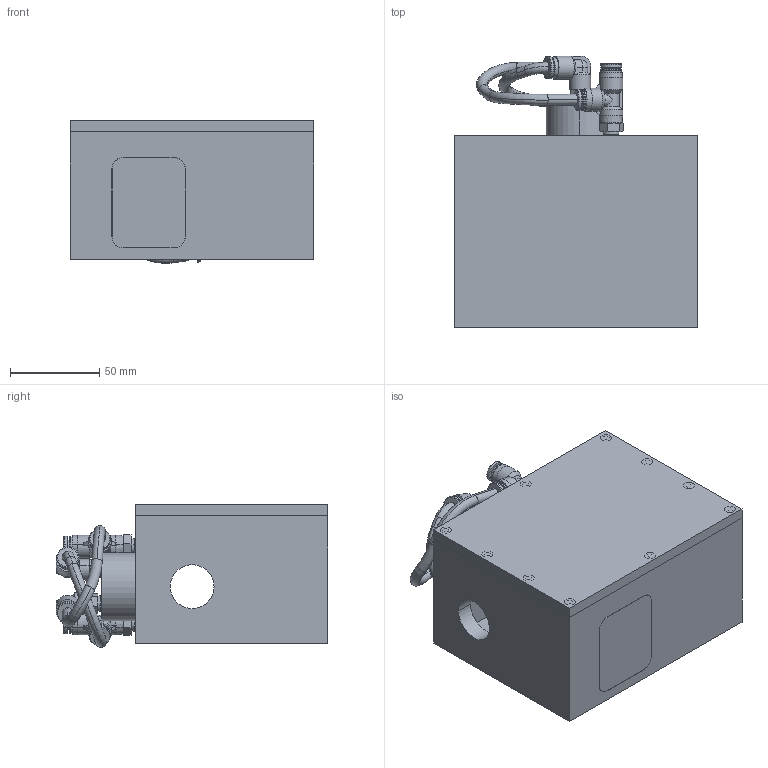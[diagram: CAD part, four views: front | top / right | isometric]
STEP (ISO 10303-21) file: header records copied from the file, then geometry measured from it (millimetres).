
FILE_DESCRIPTION (( 'STEP AP214' ), '1' );
FILE_NAME ('SSDP-19WatercooledBrassCone.STEP', '2016-07-12T15:25:11', ( '' ), ( '' ), 'SwSTEP 2.0', 'SolidWorks 2016', '' );
FILE_SCHEMA (( 'AUTOMOTIVE_DESIGN' ));
Length unit declared in the file: inch
Products named in the file (1): SSDP-19WatercooledBrassCone
Bounding box: 136.53 x 152.52 x 80.13 mm (x, y, z)
Volume: 505347 mm3; surface area: 147903.6 mm2
Topology: 22 solids, 22 shells, 943 faces, 2114 edges, 1291 vertices
Faces by surface type: plane 390, cylinder 291, cone 162, torus 96, sphere 4
Entity records: 26861 total; most frequent: CARTESIAN_POINT 5280, DIRECTION 4748, ORIENTED_EDGE 4188, EDGE_CURVE 2094, AXIS2_PLACEMENT_3D 1889, VERTEX_POINT 1291, EDGE_LOOP 1043, VECTOR 970
